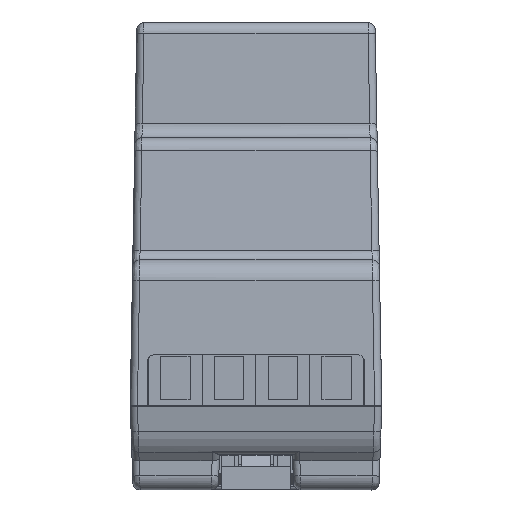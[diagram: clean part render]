
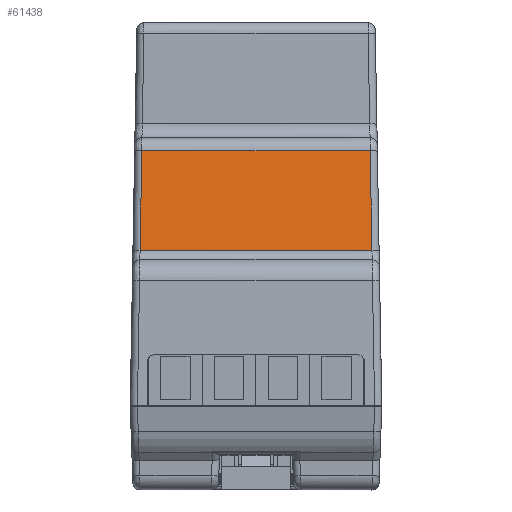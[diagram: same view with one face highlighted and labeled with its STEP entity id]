
A CAD part, left-side view. The second image highlights one B-rep face of the part: STEP entity #61438.
In plain terms, the highlighted planar face has unit normal (-0.996, 0, 0.087).
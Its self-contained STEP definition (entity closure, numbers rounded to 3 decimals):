
#2757=PLANE('',#65131);
#5604=FACE_OUTER_BOUND('',#8871,.T.);
#8871=EDGE_LOOP('',(#46396,#46397,#46398,#46399));
#13180=LINE('',#88756,#20965);
#13181=LINE('',#88761,#20966);
#13182=LINE('',#88763,#20967);
#13183=LINE('',#88764,#20968);
#20965=VECTOR('',#71103,10.);
#20966=VECTOR('',#71110,10.);
#20967=VECTOR('',#71111,10.);
#20968=VECTOR('',#71112,10.);
#28982=VERTEX_POINT('',#88754);
#28983=VERTEX_POINT('',#88755);
#28984=VERTEX_POINT('',#88760);
#28985=VERTEX_POINT('',#88762);
#35595=EDGE_CURVE('',#28982,#28983,#13180,.T.);
#35598=EDGE_CURVE('',#28984,#28983,#13181,.T.);
#35599=EDGE_CURVE('',#28985,#28984,#13182,.T.);
#35600=EDGE_CURVE('',#28982,#28985,#13183,.T.);
#46396=ORIENTED_EDGE('',*,*,#35598,.F.);
#46397=ORIENTED_EDGE('',*,*,#35599,.F.);
#46398=ORIENTED_EDGE('',*,*,#35600,.F.);
#46399=ORIENTED_EDGE('',*,*,#35595,.T.);
#61438=ADVANCED_FACE('',(#5604),#2757,.T.);
#65131=AXIS2_PLACEMENT_3D('',#88759,#71108,#71109);
#71103=DIRECTION('',(0.,1.,0.));
#71108=DIRECTION('center_axis',(-0.996,0.,0.087));
#71109=DIRECTION('ref_axis',(0.087,0.,0.996));
#71110=DIRECTION('',(0.087,-0.017,0.996));
#71111=DIRECTION('',(0.,1.,0.));
#71112=DIRECTION('',(-0.087,-0.017,-0.996));
#88754=CARTESIAN_POINT('',(-32.84,1.618,47.174));
#88755=CARTESIAN_POINT('',(-32.84,33.382,47.174));
#88756=CARTESIAN_POINT('',(-32.84,0.,47.174));
#88759=CARTESIAN_POINT('Origin',(-32.84,0.,47.174));
#88760=CARTESIAN_POINT('',(-34.048,33.623,33.369));
#88761=CARTESIAN_POINT('',(-34.447,33.703,28.804));
#88762=CARTESIAN_POINT('',(-34.048,1.377,33.369));
#88763=CARTESIAN_POINT('',(-34.048,0.,33.369));
#88764=CARTESIAN_POINT('',(-34.473,1.292,28.501));
